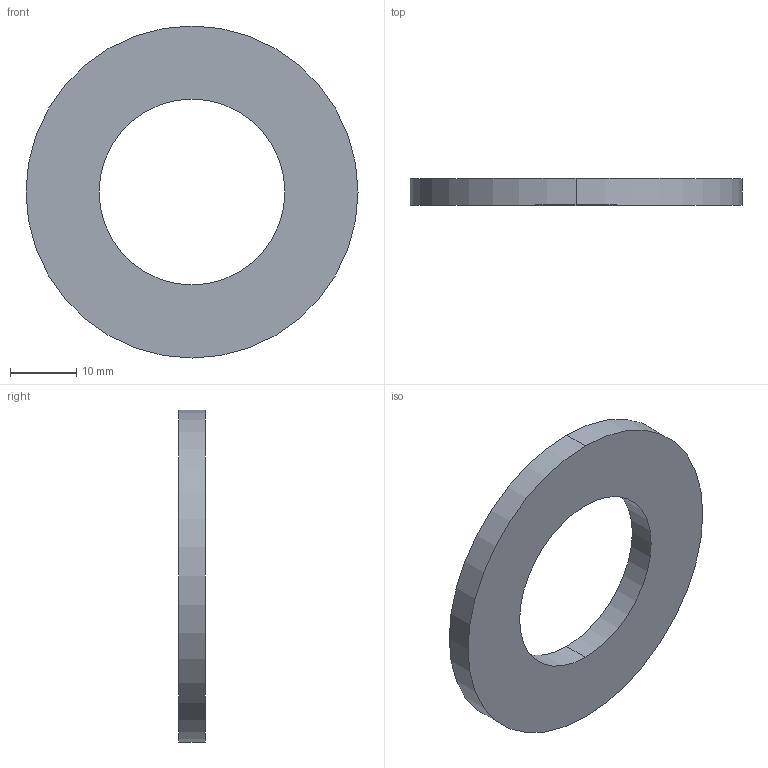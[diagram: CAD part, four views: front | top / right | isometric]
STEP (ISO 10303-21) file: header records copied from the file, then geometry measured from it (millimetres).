
FILE_DESCRIPTION (( 'STEP AP203' ), '1' );
FILE_NAME ('P0330.270-ZP.step', '2018-07-08T17:20:44', ( '' ), ( '' ), 'SwSTEP 2.0', 'SolidWorks 2017', '' );
FILE_SCHEMA (( 'CONFIG_CONTROL_DESIGN' ));
Length unit declared in the file: millimetre
Products named in the file (1): P0330.270-ZP
Bounding box: 50 x 4 x 50 mm (x, y, z)
Volume: 5391 mm3; surface area: 3675.7 mm2
Topology: 1 solids, 1 shells, 6 faces, 12 edges, 8 vertices
Faces by surface type: cylinder 4, plane 2
Entity records: 245 total; most frequent: DIRECTION 34, CARTESIAN_POINT 27, ORIENTED_EDGE 24, AXIS2_PLACEMENT_3D 15, EDGE_CURVE 12, PERSON_AND_ORGANIZATION 8, CIRCLE 8, VERTEX_POINT 8
